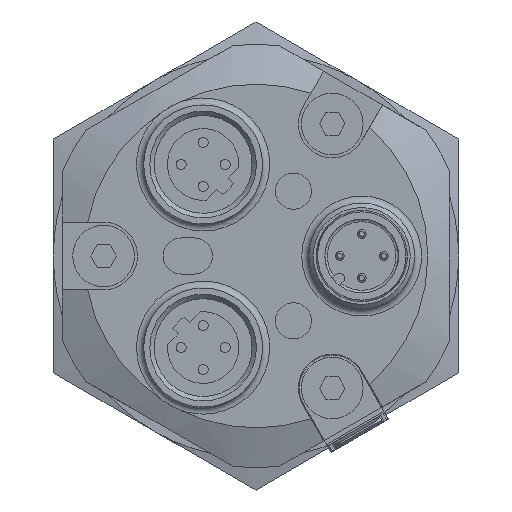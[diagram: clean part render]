
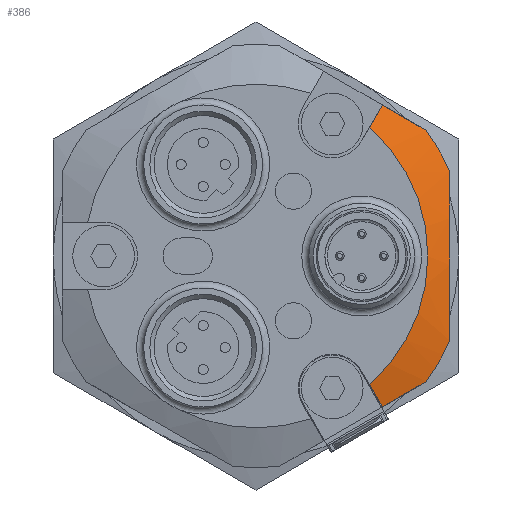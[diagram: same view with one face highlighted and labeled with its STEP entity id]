
A CAD part, left-side view. The second image highlights one B-rep face of the part: STEP entity #386.
In plain terms, the highlighted conical face has half-angle 70 degrees and reference radius 19.5 mm.
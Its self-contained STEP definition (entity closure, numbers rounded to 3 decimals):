
#386 = ADVANCED_FACE( '', ( #907 ), #908, .T. );
#907 = FACE_OUTER_BOUND( '', #1442, .T. );
#908 = CONICAL_SURFACE( '', #1443, 19.5, 1.222 );
#1442 = EDGE_LOOP( '', ( #3046, #3047, #3048, #3049, #3050, #3051, #3052, #3053 ) );
#1443 = AXIS2_PLACEMENT_3D( '', #3054, #3055, #3056 );
#3046 = ORIENTED_EDGE( '', *, *, #3117, .F. );
#3047 = ORIENTED_EDGE( '', *, *, #3225, .F. );
#3048 = ORIENTED_EDGE( '', *, *, #3376, .F. );
#3049 = ORIENTED_EDGE( '', *, *, #3229, .F. );
#3050 = ORIENTED_EDGE( '', *, *, #3233, .F. );
#3051 = ORIENTED_EDGE( '', *, *, #3237, .F. );
#3052 = ORIENTED_EDGE( '', *, *, #3137, .F. );
#3053 = ORIENTED_EDGE( '', *, *, #3162, .T. );
#3054 = CARTESIAN_POINT( '', ( -68., 0., 0. ) );
#3055 = DIRECTION( '', ( 1., 0., 0. ) );
#3056 = DIRECTION( '', ( 0., 0., -1. ) );
#3117 = EDGE_CURVE( '', #3606, #3607, #3608, .T. );
#3137 = EDGE_CURVE( '', #3643, #3644, #3645, .T. );
#3162 = EDGE_CURVE( '', #3643, #3607, #3689, .T. );
#3225 = EDGE_CURVE( '', #3801, #3606, #3803, .T. );
#3229 = EDGE_CURVE( '', #3807, #3810, #3811, .F. );
#3233 = EDGE_CURVE( '', #3815, #3807, #3818, .T. );
#3237 = EDGE_CURVE( '', #3644, #3815, #3824, .T. );
#3376 = EDGE_CURVE( '', #3810, #3801, #4042, .T. );
#3606 = VERTEX_POINT( '', #4434 );
#3607 = VERTEX_POINT( '', #4435 );
#3608 = B_SPLINE_CURVE_WITH_KNOTS( '', 3, ( #4436, #4437, #4438, #4439 ), .UNSPECIFIED., .F., .F., ( 4, 4 ), ( 0.001, 0.004 ), .UNSPECIFIED. );
#3643 = VERTEX_POINT( '', #4490 );
#3644 = VERTEX_POINT( '', #4491 );
#3645 = B_SPLINE_CURVE_WITH_KNOTS( '', 3, ( #4492, #4493, #4494, #4495 ), .UNSPECIFIED., .F., .F., ( 4, 4 ), ( 0., 0.003 ), .UNSPECIFIED. );
#3689 = CIRCLE( '', #4579, 19.5 );
#3801 = VERTEX_POINT( '', #4735 );
#3803 = B_SPLINE_CURVE_WITH_KNOTS( '', 3, ( #4738, #4739, #4740, #4741 ), .UNSPECIFIED., .F., .F., ( 4, 4 ), ( 0., 0.006 ), .UNSPECIFIED. );
#3807 = VERTEX_POINT( '', #4747 );
#3810 = VERTEX_POINT( '', #4751 );
#3811 = B_SPLINE_CURVE_WITH_KNOTS( '', 3, ( #4752, #4753, #4754, #4755, #4756, #4757, #4758, #4759, #4760, #4761 ), .UNSPECIFIED., .F., .F., ( 4, 2, 2, 2, 4 ), ( 0.022, 0.026, 0.031, 0.036, 0.041 ), .UNSPECIFIED. );
#3815 = VERTEX_POINT( '', #4767 );
#3818 = CIRCLE( '', #4771, 24. );
#3824 = B_SPLINE_CURVE_WITH_KNOTS( '', 3, ( #4781, #4782, #4783, #4784 ), .UNSPECIFIED., .F., .F., ( 4, 4 ), ( 0.013, 0.019 ), .UNSPECIFIED. );
#4042 = CIRCLE( '', #5164, 24. );
#4434 = CARTESIAN_POINT( '', ( -66.968, -14.334, -17.128 ) );
#4435 = CARTESIAN_POINT( '', ( -68., -12.892, -14.63 ) );
#4436 = CARTESIAN_POINT( '', ( -66.968, -14.334, -17.128 ) );
#4437 = CARTESIAN_POINT( '', ( -67.313, -13.854, -16.295 ) );
#4438 = CARTESIAN_POINT( '', ( -67.657, -13.373, -15.463 ) );
#4439 = CARTESIAN_POINT( '', ( -68., -12.892, -14.63 ) );
#4490 = CARTESIAN_POINT( '', ( -68., -12.892, 14.63 ) );
#4491 = CARTESIAN_POINT( '', ( -66.968, -14.334, 17.128 ) );
#4492 = CARTESIAN_POINT( '', ( -68., -12.892, 14.63 ) );
#4493 = CARTESIAN_POINT( '', ( -67.657, -13.373, 15.463 ) );
#4494 = CARTESIAN_POINT( '', ( -67.313, -13.854, 16.295 ) );
#4495 = CARTESIAN_POINT( '', ( -66.968, -14.334, 17.128 ) );
#4579 = AXIS2_PLACEMENT_3D( '', #5737, #5738, #5739 );
#4735 = CARTESIAN_POINT( '', ( -66.362, -19.307, -14.257 ) );
#4738 = CARTESIAN_POINT( '', ( -66.362, -19.307, -14.257 ) );
#4739 = CARTESIAN_POINT( '', ( -66.641, -17.649, -15.214 ) );
#4740 = CARTESIAN_POINT( '', ( -66.848, -15.992, -16.171 ) );
#4741 = CARTESIAN_POINT( '', ( -66.968, -14.334, -17.128 ) );
#4747 = CARTESIAN_POINT( '', ( -66.362, -22., 9.592 ) );
#4751 = CARTESIAN_POINT( '', ( -66.362, -22., -9.592 ) );
#4752 = CARTESIAN_POINT( '', ( -66.362, -22., -9.592 ) );
#4753 = CARTESIAN_POINT( '', ( -66.594, -22., -7.995 ) );
#4754 = CARTESIAN_POINT( '', ( -66.78, -22., -6.382 ) );
#4755 = CARTESIAN_POINT( '', ( -67.028, -22., -3.171 ) );
#4756 = CARTESIAN_POINT( '', ( -67.091, -22., -1.568 ) );
#4757 = CARTESIAN_POINT( '', ( -67.089, -22., 1.631 ) );
#4758 = CARTESIAN_POINT( '', ( -67.024, -22., 3.227 ) );
#4759 = CARTESIAN_POINT( '', ( -66.776, -22., 6.414 ) );
#4760 = CARTESIAN_POINT( '', ( -66.593, -22., 8.004 ) );
#4761 = CARTESIAN_POINT( '', ( -66.362, -22., 9.592 ) );
#4767 = CARTESIAN_POINT( '', ( -66.362, -19.307, 14.257 ) );
#4771 = AXIS2_PLACEMENT_3D( '', #5874, #5875, #5876 );
#4781 = CARTESIAN_POINT( '', ( -66.968, -14.334, 17.128 ) );
#4782 = CARTESIAN_POINT( '', ( -66.848, -15.992, 16.171 ) );
#4783 = CARTESIAN_POINT( '', ( -66.641, -17.649, 15.214 ) );
#4784 = CARTESIAN_POINT( '', ( -66.362, -19.307, 14.257 ) );
#5164 = AXIS2_PLACEMENT_3D( '', #6096, #6097, #6098 );
#5737 = CARTESIAN_POINT( '', ( -68., 0., 0. ) );
#5738 = DIRECTION( '', ( 1., 0., 0. ) );
#5739 = DIRECTION( '', ( 0., 0., -1. ) );
#5874 = CARTESIAN_POINT( '', ( -66.362, 0., 0. ) );
#5875 = DIRECTION( '', ( 1., 0., 0. ) );
#5876 = DIRECTION( '', ( 0., 0., -1. ) );
#6096 = CARTESIAN_POINT( '', ( -66.362, 0., 0. ) );
#6097 = DIRECTION( '', ( 1., 0., 0. ) );
#6098 = DIRECTION( '', ( 0., 0., -1. ) );
